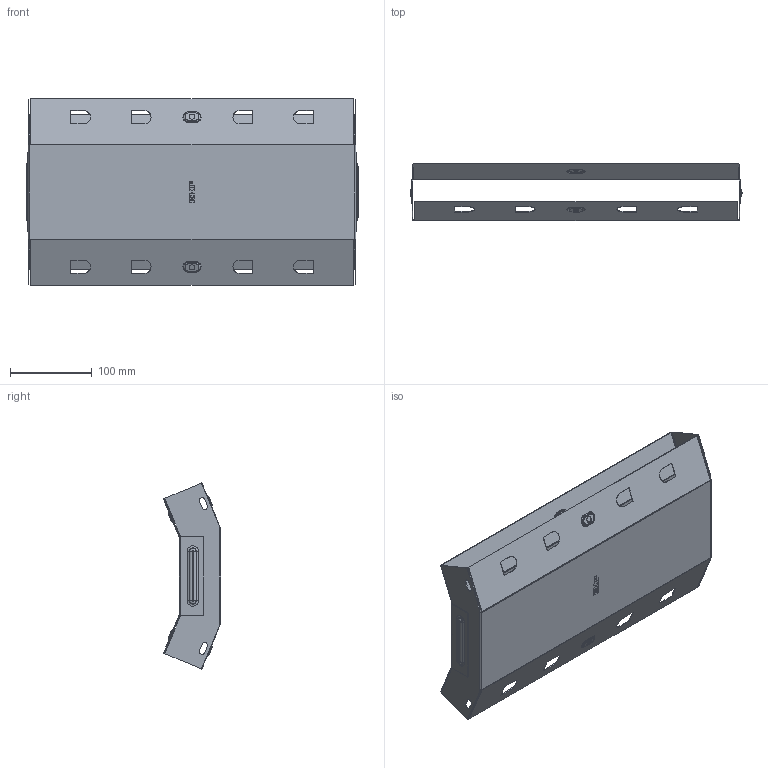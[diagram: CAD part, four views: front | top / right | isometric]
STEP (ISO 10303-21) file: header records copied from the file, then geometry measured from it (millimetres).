
FILE_DESCRIPTION (( 'STEP AP214' ), '1' );
FILE_NAME ('vi4550400_捘.STEP', '2019-06-10T08:32:19', ( '砐錪賧瘔蠈錪 Windows' ), ( '' ), 'SwSTEP 2.0', 'SolidWorks 2018', '' );
FILE_SCHEMA (( 'AUTOMOTIVE_DESIGN' ));
Length unit declared in the file: millimetre
Products named in the file (1): vi4550400_捘
Bounding box: 405.6 x 69.93 x 227.28 mm (x, y, z)
Volume: 156205.7 mm3; surface area: 393734.8 mm2
Topology: 2 solids, 2 shells, 448 faces, 1152 edges, 736 vertices
Faces by surface type: plane 246, cylinder 120, torus 64, bspline 18
Entity records: 14524 total; most frequent: CARTESIAN_POINT 3356, DIRECTION 2314, ORIENTED_EDGE 2304, EDGE_CURVE 1152, VECTOR 780, LINE 780, AXIS2_PLACEMENT_3D 767, VERTEX_POINT 736
